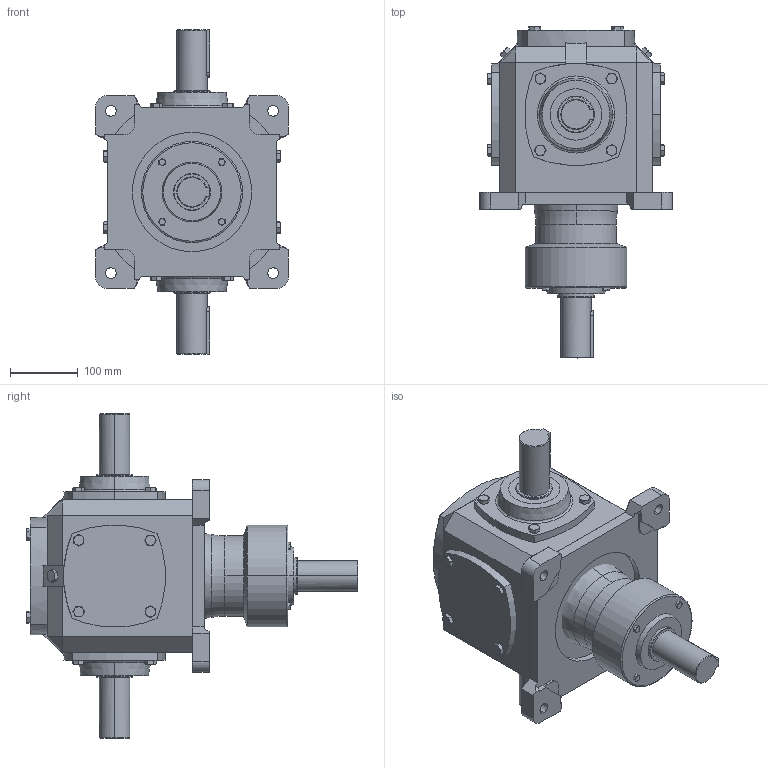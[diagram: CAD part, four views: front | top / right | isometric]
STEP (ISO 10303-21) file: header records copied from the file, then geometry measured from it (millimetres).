
FILE_DESCRIPTION (( 'STEP AP203' ), '1' );
FILE_NAME ('TC10-1-WX1-U1.step', '2018-07-12T06:21:02', ( 'IT Division' ), ( 'IT' ), 'SwSTEP 2.0', 'SolidWorks 2016', '' );
FILE_SCHEMA (( 'CONFIG_CONTROL_DESIGN' ));
Length unit declared in the file: millimetre
Products named in the file (1): TC10-1-WX1-U1
Bounding box: 285 x 490.99 x 480 mm (x, y, z)
Volume: 16144969 mm3; surface area: 616498.7 mm2
Topology: 2 solids, 2 shells, 603 faces, 1446 edges, 886 vertices
Faces by surface type: plane 300, cone 198, cylinder 93, torus 12
Entity records: 18612 total; most frequent: CARTESIAN_POINT 4991, ORIENTED_EDGE 2892, DIRECTION 2686, EDGE_CURVE 1446, AXIS2_PLACEMENT_3D 985, VERTEX_POINT 886, VECTOR 716, LINE 716
